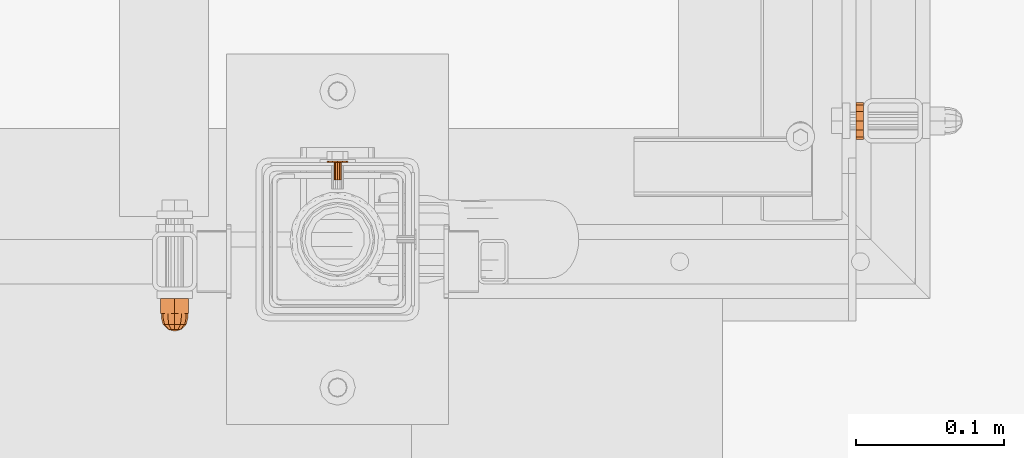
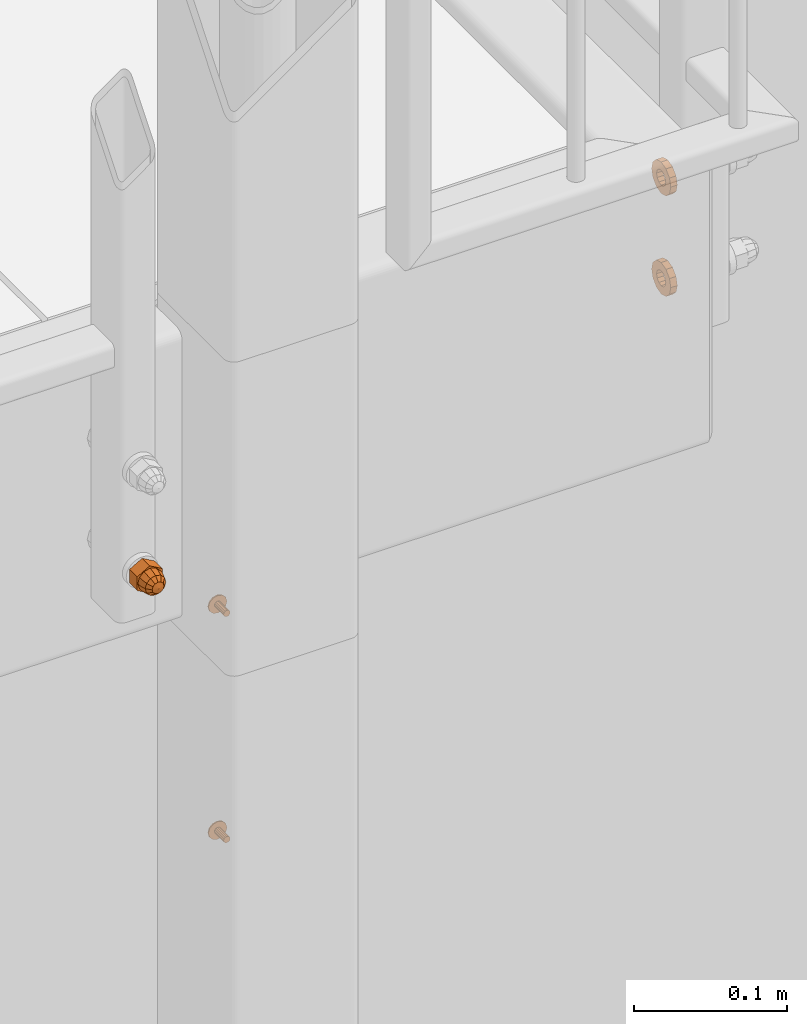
# One storey, part 127 of 162: 5 proxies.
"""IFC2X3 building model written with IfcOpenShell, lengths in millimetres."""

from ifc_helpers import new_model, entity, si_unit, converted_unit, origin_with_axes, place, context, project, spatial, faceted_brep, material, element, save


model = new_model("IFC2X3")

# Units and contexts
model_context = context("Model", 3, precision=1e-09, world=origin_with_axes())
ifc_project = project(units=[si_unit("LENGTHUNIT", "METRE", prefix="MILLI"), si_unit("AREAUNIT", "SQUARE_METRE"), si_unit("VOLUMEUNIT", "CUBIC_METRE"), converted_unit("PLANEANGLEUNIT", "DEGREE", entity("IfcPlaneAngleMeasure", 0.01745329), si_unit("PLANEANGLEUNIT", "RADIAN"), dimensions=[0, 0, 0, 0, 0, 0, 0])], contexts=[model_context])

# Site, building, storey
site_placement = place(None, origin_with_axes())
site = spatial("IfcSite", under=ifc_project, at=site_placement, Name="Hermannstra?e 1a, 60318 Frankfurt", CompositionType="ELEMENT")
building_placement = place(site_placement, origin_with_axes())
building = spatial("IfcBuilding", under=site, at=building_placement, Name="Struktur 1", CompositionType="ELEMENT")
storey_placement = place(building_placement, origin_with_axes())
storey = spatial("IfcBuildingStorey", under=building, at=storey_placement, Name="Default Storey", CompositionType="ELEMENT", Elevation=0.0)

# Proxies
ifc_material = material(Name="Kein")
proxy_1_placement = place(None, origin_with_axes())
element("IfcBuildingElementProxy", 1, at=proxy_1_placement, inside=storey, material=ifc_material, ObjectType="-", context=model_context, shape_type="Brep", body=[
    faceted_brep([(5357.30936482, 1490.609373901, 11339.999), (5357.30936482, 1480.609373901, 11339.999), (5358.113212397, 1480.609373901, 11336.999), (5358.113212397, 1490.609373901, 11336.999), (5360.30936482, 1480.609373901, 11334.802847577), (5360.30936482, 1490.609373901, 11334.802847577), (5358.113212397, 1490.609373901, 11342.999), (5358.113212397, 1480.609373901, 11342.999), (5353.829495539, 1490.609373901, 11345.472205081), (5363.30936482, 1490.609373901, 11350.945410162), (5372.7892341, 1490.609373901, 11345.472205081), (5372.7892341, 1490.609373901, 11334.525794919), (5363.30936482, 1490.609373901, 11329.052589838), (5353.829495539, 1490.609373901, 11334.525794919), (5360.30936482, 1490.609373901, 11345.195152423), (5363.30936482, 1490.609373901, 11333.999), (5366.30936482, 1490.609373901, 11334.802847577), (5368.505517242, 1490.609373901, 11336.999), (5369.30936482, 1490.609373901, 11339.999), (5368.505517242, 1490.609373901, 11342.999), (5366.30936482, 1490.609373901, 11345.195152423), (5363.30936482, 1490.609373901, 11345.999), (5363.30936482, 1480.609373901, 11350.945410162), (5353.829495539, 1480.609373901, 11345.472205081), (5353.829495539, 1480.609373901, 11334.525794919), (5363.30936482, 1480.609373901, 11329.052589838), (5372.7892341, 1480.609373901, 11334.525794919), (5372.7892341, 1480.609373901, 11345.472205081), (5360.30936482, 1480.609373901, 11345.195152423), (5363.30936482, 1480.609373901, 11345.999), (5366.30936482, 1480.609373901, 11345.195152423), (5368.505517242, 1480.609373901, 11342.999), (5369.30936482, 1480.609373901, 11339.999), (5368.505517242, 1480.609373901, 11336.999), (5366.30936482, 1480.609373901, 11334.802847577), (5363.30936482, 1480.609373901, 11333.999)], [[[0, 1, 2, 3]], [[3, 2, 4, 5]], [[1, 0, 6, 7]], [[8, 9, 10, 11, 12, 13], [14, 6, 0, 3, 5, 15, 16, 17, 18, 19, 20, 21]], [[22, 23, 24, 25, 26, 27], [1, 7, 28, 29, 30, 31, 32, 33, 34, 35, 4, 2]], [[7, 6, 14, 28]], [[24, 23, 8, 13]], [[5, 4, 35, 15]], [[13, 12, 25, 24]], [[28, 14, 21, 29]], [[23, 22, 9, 8]], [[15, 35, 34, 16]], [[12, 11, 26, 25]], [[29, 21, 20, 30]], [[22, 27, 10, 9]], [[16, 34, 33, 17]], [[27, 26, 11, 10]], [[30, 20, 19, 31]], [[17, 33, 32, 18]], [[31, 19, 18, 32]]]),
    faceted_brep([(5363.30936482, 1480.609373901, 11348.999), (5363.30936482, 1477.609373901, 11348.999), (5367.80936482, 1477.609373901, 11347.793228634), (5367.80936482, 1480.609373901, 11347.793228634), (5358.80936482, 1480.609373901, 11347.793228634), (5358.80936482, 1477.609373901, 11347.793228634), (5355.515136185, 1477.609373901, 11335.499), (5358.80936482, 1477.609373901, 11332.204771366), (5363.30936482, 1477.609373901, 11330.999), (5367.80936482, 1477.609373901, 11332.204771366), (5371.103593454, 1477.609373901, 11335.499), (5372.30936482, 1477.609373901, 11339.999), (5371.103593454, 1477.609373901, 11344.499), (5355.515136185, 1477.609373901, 11344.499), (5354.30936482, 1477.609373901, 11339.999), (5371.103593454, 1480.609373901, 11335.499), (5367.80936482, 1480.609373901, 11332.204771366), (5363.30936482, 1480.609373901, 11330.999), (5358.80936482, 1480.609373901, 11332.204771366), (5355.515136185, 1480.609373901, 11335.499), (5354.30936482, 1480.609373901, 11339.999), (5355.515136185, 1480.609373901, 11344.499), (5371.103593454, 1480.609373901, 11344.499), (5372.30936482, 1480.609373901, 11339.999)], [[[0, 1, 2, 3]], [[1, 0, 4, 5]], [[6, 7, 8, 9, 10, 11, 12, 2, 1, 5, 13, 14]], [[15, 16, 17, 18, 19, 20, 21, 4, 0, 3, 22, 23]], [[3, 2, 12, 22]], [[5, 4, 21, 13]], [[22, 12, 11, 23]], [[13, 21, 20, 14]], [[7, 18, 17, 8]], [[19, 6, 14, 20]], [[18, 7, 6, 19]], [[23, 11, 10, 15]], [[8, 17, 16, 9]], [[15, 10, 9, 16]]]),
    faceted_brep([(5355.515136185, 1477.609373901, 11344.499), (5356.55936482, 1473.109373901, 11343.896114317), (5359.412250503, 1473.109373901, 11346.749), (5358.80936482, 1477.609373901, 11347.793228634), (5371.103593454, 1477.609373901, 11335.499), (5367.80936482, 1477.609373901, 11332.204771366), (5363.30936482, 1477.609373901, 11330.999), (5358.80936482, 1477.609373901, 11332.204771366), (5355.515136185, 1477.609373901, 11335.499), (5354.30936482, 1477.609373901, 11339.999), (5363.30936482, 1477.609373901, 11348.999), (5367.80936482, 1477.609373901, 11347.793228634), (5371.103593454, 1477.609373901, 11344.499), (5372.30936482, 1477.609373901, 11339.999), (5363.30936482, 1473.109373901, 11347.793228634), (5355.515136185, 1473.109373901, 11339.999), (5358.80936482, 1469.815145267, 11339.999), (5359.412250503, 1469.815145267, 11342.249), (5367.206479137, 1473.109373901, 11346.749), (5361.05936482, 1469.815145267, 11343.896114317), (5356.55936482, 1473.109373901, 11336.101885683), (5359.412250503, 1469.815145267, 11337.749), (5363.30936482, 1469.815145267, 11344.499), (5363.30936482, 1468.609373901, 11339.999), (5359.412250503, 1473.109373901, 11333.249), (5361.05936482, 1469.815145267, 11336.101885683), (5363.30936482, 1473.109373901, 11332.204771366), (5370.05936482, 1473.109373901, 11343.896114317), (5365.55936482, 1469.815145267, 11343.896114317), (5363.30936482, 1469.815145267, 11335.499), (5367.206479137, 1473.109373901, 11333.249), (5365.55936482, 1469.815145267, 11336.101885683), (5371.103593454, 1473.109373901, 11339.999), (5367.206479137, 1469.815145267, 11342.249), (5370.05936482, 1473.109373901, 11336.101885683), (5367.206479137, 1469.815145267, 11337.749), (5367.80936482, 1469.815145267, 11339.999)], [[[0, 1, 2, 3]], [[4, 5, 6, 7, 8, 9, 0, 3, 10, 11, 12, 13]], [[3, 2, 14, 10]], [[15, 16, 17, 1]], [[1, 0, 9, 15]], [[10, 14, 18, 11]], [[1, 17, 19, 2]], [[16, 15, 20, 21]], [[2, 19, 22, 14]], [[23, 17, 16]], [[24, 25, 21, 20]], [[23, 16, 21]], [[24, 7, 6, 26]], [[20, 8, 7, 24]], [[15, 9, 8, 20]], [[11, 18, 27, 12]], [[14, 22, 28, 18]], [[23, 19, 17]], [[26, 29, 25, 24]], [[23, 21, 25]], [[23, 22, 19]], [[26, 6, 5, 30]], [[29, 26, 30, 31]], [[23, 25, 29]], [[12, 27, 32, 13]], [[18, 28, 33, 27]], [[23, 28, 22]], [[23, 29, 31]], [[23, 33, 28]], [[30, 5, 4, 34]], [[31, 30, 34, 35]], [[23, 31, 35]], [[13, 32, 34, 4]], [[27, 33, 36, 32]], [[23, 36, 33]], [[23, 35, 36]], [[35, 34, 32, 36]]]),
])
proxy_2_placement = place(None, origin_with_axes())
element("IfcBuildingElementProxy", 2, at=proxy_2_placement, inside=storey, material=ifc_material, ObjectType="-", context=model_context, shape_type="Brep", body=[
    faceted_brep([(5828.30936482, 1599.784056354, 11413.749), (5828.30936482, 1604.359373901, 11409.173682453), (5828.30936482, 1610.609373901, 11407.499), (5828.30936482, 1616.859373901, 11409.173682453), (5828.30936482, 1621.434691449, 11413.749), (5828.30936482, 1623.109373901, 11419.999), (5828.30936482, 1621.434691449, 11426.249), (5828.30936482, 1616.859373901, 11430.824317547), (5828.30936482, 1610.609373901, 11432.499), (5828.30936482, 1604.359373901, 11430.824317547), (5828.30936482, 1599.784056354, 11426.249), (5828.30936482, 1598.109373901, 11419.999), (5828.30936482, 1610.609373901, 11413.999), (5828.30936482, 1607.609373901, 11414.802847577), (5828.30936482, 1605.413221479, 11416.999), (5828.30936482, 1604.609373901, 11419.999), (5828.30936482, 1605.413221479, 11422.999), (5828.30936482, 1607.609373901, 11425.195152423), (5828.30936482, 1610.609373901, 11425.999), (5828.30936482, 1613.609373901, 11425.195152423), (5828.30936482, 1615.805526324, 11422.999), (5828.30936482, 1616.609373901, 11419.999), (5828.30936482, 1615.805526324, 11416.999), (5828.30936482, 1613.609373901, 11414.802847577), (5823.30936482, 1599.784056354, 11413.749), (5823.30936482, 1604.359373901, 11409.173682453), (5823.30936482, 1598.109373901, 11419.999), (5823.30936482, 1599.784056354, 11426.249), (5823.30936482, 1604.359373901, 11430.824317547), (5823.30936482, 1610.609373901, 11432.499), (5823.30936482, 1616.859373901, 11430.824317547), (5823.30936482, 1621.434691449, 11426.249), (5823.30936482, 1623.109373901, 11419.999), (5823.30936482, 1621.434691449, 11413.749), (5823.30936482, 1616.859373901, 11409.173682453), (5823.30936482, 1610.609373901, 11407.499), (5823.30936482, 1605.413221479, 11422.999), (5823.30936482, 1604.609373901, 11419.999), (5823.30936482, 1605.413221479, 11416.999), (5823.30936482, 1607.609373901, 11414.802847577), (5823.30936482, 1610.609373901, 11413.999), (5823.30936482, 1613.609373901, 11414.802847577), (5823.30936482, 1615.805526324, 11416.999), (5823.30936482, 1616.609373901, 11419.999), (5823.30936482, 1615.805526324, 11422.999), (5823.30936482, 1613.609373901, 11425.195152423), (5823.30936482, 1610.609373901, 11425.999), (5823.30936482, 1607.609373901, 11425.195152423)], [[[0, 1, 2, 3, 4, 5, 6, 7, 8, 9, 10, 11], [12, 13, 14, 15, 16, 17, 18, 19, 20, 21, 22, 23]], [[0, 24, 25, 1]], [[24, 26, 27, 28, 29, 30, 31, 32, 33, 34, 35, 25], [36, 37, 38, 39, 40, 41, 42, 43, 44, 45, 46, 47]], [[38, 14, 13, 39]], [[24, 0, 11, 26]], [[14, 38, 37, 15]], [[39, 13, 12, 40]], [[1, 25, 35, 2]], [[26, 11, 10, 27]], [[15, 37, 36, 16]], [[40, 12, 23, 41]], [[2, 35, 34, 3]], [[27, 10, 9, 28]], [[16, 36, 47, 17]], [[22, 42, 41, 23]], [[3, 34, 33, 4]], [[42, 22, 21, 43]], [[28, 9, 8, 29]], [[17, 47, 46, 18]], [[20, 44, 43, 21]], [[4, 33, 32, 5]], [[45, 19, 18, 46]], [[44, 20, 19, 45]], [[29, 8, 7, 30]], [[5, 32, 31, 6]], [[30, 7, 6, 31]]]),
])
proxy_3_placement = place(None, origin_with_axes())
element("IfcBuildingElementProxy", 3, at=proxy_3_placement, inside=storey, material=ifc_material, ObjectType="-", context=model_context, shape_type="Brep", body=[
    faceted_brep([(5828.30936482, 1599.784056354, 11333.749), (5828.30936482, 1604.359373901, 11329.173682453), (5828.30936482, 1610.609373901, 11327.499), (5828.30936482, 1616.859373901, 11329.173682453), (5828.30936482, 1621.434691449, 11333.749), (5828.30936482, 1623.109373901, 11339.999), (5828.30936482, 1621.434691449, 11346.249), (5828.30936482, 1616.859373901, 11350.824317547), (5828.30936482, 1610.609373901, 11352.499), (5828.30936482, 1604.359373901, 11350.824317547), (5828.30936482, 1599.784056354, 11346.249), (5828.30936482, 1598.109373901, 11339.999), (5828.30936482, 1610.609373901, 11333.999), (5828.30936482, 1607.609373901, 11334.802847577), (5828.30936482, 1605.413221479, 11336.999), (5828.30936482, 1604.609373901, 11339.999), (5828.30936482, 1605.413221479, 11342.999), (5828.30936482, 1607.609373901, 11345.195152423), (5828.30936482, 1610.609373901, 11345.999), (5828.30936482, 1613.609373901, 11345.195152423), (5828.30936482, 1615.805526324, 11342.999), (5828.30936482, 1616.609373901, 11339.999), (5828.30936482, 1615.805526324, 11336.999), (5828.30936482, 1613.609373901, 11334.802847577), (5823.30936482, 1599.784056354, 11333.749), (5823.30936482, 1604.359373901, 11329.173682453), (5823.30936482, 1598.109373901, 11339.999), (5823.30936482, 1599.784056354, 11346.249), (5823.30936482, 1604.359373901, 11350.824317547), (5823.30936482, 1610.609373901, 11352.499), (5823.30936482, 1616.859373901, 11350.824317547), (5823.30936482, 1621.434691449, 11346.249), (5823.30936482, 1623.109373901, 11339.999), (5823.30936482, 1621.434691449, 11333.749), (5823.30936482, 1616.859373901, 11329.173682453), (5823.30936482, 1610.609373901, 11327.499), (5823.30936482, 1605.413221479, 11342.999), (5823.30936482, 1604.609373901, 11339.999), (5823.30936482, 1605.413221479, 11336.999), (5823.30936482, 1607.609373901, 11334.802847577), (5823.30936482, 1610.609373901, 11333.999), (5823.30936482, 1613.609373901, 11334.802847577), (5823.30936482, 1615.805526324, 11336.999), (5823.30936482, 1616.609373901, 11339.999), (5823.30936482, 1615.805526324, 11342.999), (5823.30936482, 1613.609373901, 11345.195152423), (5823.30936482, 1610.609373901, 11345.999), (5823.30936482, 1607.609373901, 11345.195152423)], [[[0, 1, 2, 3, 4, 5, 6, 7, 8, 9, 10, 11], [12, 13, 14, 15, 16, 17, 18, 19, 20, 21, 22, 23]], [[0, 24, 25, 1]], [[24, 26, 27, 28, 29, 30, 31, 32, 33, 34, 35, 25], [36, 37, 38, 39, 40, 41, 42, 43, 44, 45, 46, 47]], [[38, 14, 13, 39]], [[24, 0, 11, 26]], [[14, 38, 37, 15]], [[39, 13, 12, 40]], [[1, 25, 35, 2]], [[26, 11, 10, 27]], [[15, 37, 36, 16]], [[40, 12, 23, 41]], [[2, 35, 34, 3]], [[27, 10, 9, 28]], [[16, 36, 47, 17]], [[22, 42, 41, 23]], [[3, 34, 33, 4]], [[42, 22, 21, 43]], [[28, 9, 8, 29]], [[17, 47, 46, 18]], [[20, 44, 43, 21]], [[4, 33, 32, 5]], [[45, 19, 18, 46]], [[44, 20, 19, 45]], [[29, 8, 7, 30]], [[5, 32, 31, 6]], [[30, 7, 6, 31]]]),
])
proxy_4_placement = place(None, origin_with_axes())
element("IfcBuildingElementProxy", 4, at=proxy_4_placement, inside=storey, material=ifc_material, ObjectType="-", context=model_context, shape_type="Brep", body=[
    faceted_brep([(5466.30936482, 1582.609373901, 11039.999), (5466.30936482, 1583.609373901, 11039.999), (5467.247186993, 1583.609373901, 11036.499), (5467.247186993, 1582.609373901, 11036.499), (5467.247186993, 1582.609373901, 11043.499), (5467.247186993, 1583.609373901, 11043.499), (5476.80936482, 1583.609373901, 11046.061177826), (5479.371542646, 1583.609373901, 11043.499), (5480.30936482, 1583.609373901, 11039.999), (5479.371542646, 1583.609373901, 11036.499), (5476.80936482, 1583.609373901, 11033.936822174), (5473.30936482, 1583.609373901, 11032.999), (5469.80936482, 1583.609373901, 11033.936822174), (5469.80936482, 1583.609373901, 11046.061177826), (5473.30936482, 1583.609373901, 11046.999), (5476.80936482, 1582.609373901, 11033.936822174), (5479.371542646, 1582.609373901, 11036.499), (5480.30936482, 1582.609373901, 11039.999), (5479.371542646, 1582.609373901, 11043.499), (5476.80936482, 1582.609373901, 11046.061177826), (5473.30936482, 1582.609373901, 11046.999), (5469.80936482, 1582.609373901, 11046.061177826), (5469.80936482, 1582.609373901, 11033.936822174), (5473.30936482, 1582.609373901, 11032.999)], [[[0, 1, 2, 3]], [[1, 0, 4, 5]], [[6, 7, 8, 9, 10, 11, 12, 2, 1, 5, 13, 14]], [[15, 16, 17, 18, 19, 20, 21, 4, 0, 3, 22, 23]], [[3, 2, 12, 22]], [[5, 4, 21, 13]], [[11, 23, 22, 12]], [[10, 15, 23, 11]], [[13, 21, 20, 14]], [[16, 9, 8, 17]], [[15, 10, 9, 16]], [[17, 8, 7, 18]], [[14, 20, 19, 6]], [[18, 7, 6, 19]]]),
    faceted_brep([(5470.80936482, 1570.609373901, 11039.999), (5470.80936482, 1582.609373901, 11039.999), (5471.14430131, 1582.609373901, 11038.749), (5471.14430131, 1570.609373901, 11038.749), (5471.14430131, 1570.609373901, 11041.249), (5471.14430131, 1582.609373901, 11041.249), (5474.55936482, 1582.609373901, 11042.164063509), (5475.474428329, 1582.609373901, 11041.249), (5475.80936482, 1582.609373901, 11039.999), (5475.474428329, 1582.609373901, 11038.749), (5474.55936482, 1582.609373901, 11037.833936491), (5473.30936482, 1582.609373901, 11037.499), (5472.05936482, 1582.609373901, 11037.833936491), (5472.05936482, 1582.609373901, 11042.164063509), (5473.30936482, 1582.609373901, 11042.499), (5474.55936482, 1570.609373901, 11037.833936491), (5475.474428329, 1570.609373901, 11038.749), (5475.80936482, 1570.609373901, 11039.999), (5475.474428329, 1570.609373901, 11041.249), (5474.55936482, 1570.609373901, 11042.164063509), (5473.30936482, 1570.609373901, 11042.499), (5472.05936482, 1570.609373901, 11042.164063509), (5472.05936482, 1570.609373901, 11037.833936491), (5473.30936482, 1570.609373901, 11037.499)], [[[0, 1, 2, 3]], [[1, 0, 4, 5]], [[6, 7, 8, 9, 10, 11, 12, 2, 1, 5, 13, 14]], [[15, 16, 17, 18, 19, 20, 21, 4, 0, 3, 22, 23]], [[3, 2, 12, 22]], [[5, 4, 21, 13]], [[11, 23, 22, 12]], [[10, 15, 23, 11]], [[13, 21, 20, 14]], [[16, 9, 8, 17]], [[15, 10, 9, 16]], [[17, 8, 7, 18]], [[14, 20, 19, 6]], [[18, 7, 6, 19]]]),
])
proxy_5_placement = place(None, origin_with_axes())
element("IfcBuildingElementProxy", 5, at=proxy_5_placement, inside=storey, material=ifc_material, ObjectType="-", context=model_context, shape_type="Brep", body=[
    faceted_brep([(5466.30936482, 1582.609373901, 11219.999), (5466.30936482, 1583.609373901, 11219.999), (5467.247186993, 1583.609373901, 11216.499), (5467.247186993, 1582.609373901, 11216.499), (5467.247186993, 1582.609373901, 11223.499), (5467.247186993, 1583.609373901, 11223.499), (5476.80936482, 1583.609373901, 11226.061177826), (5479.371542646, 1583.609373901, 11223.499), (5480.30936482, 1583.609373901, 11219.999), (5479.371542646, 1583.609373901, 11216.499), (5476.80936482, 1583.609373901, 11213.936822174), (5473.30936482, 1583.609373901, 11212.999), (5469.80936482, 1583.609373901, 11213.936822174), (5469.80936482, 1583.609373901, 11226.061177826), (5473.30936482, 1583.609373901, 11226.999), (5476.80936482, 1582.609373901, 11213.936822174), (5479.371542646, 1582.609373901, 11216.499), (5480.30936482, 1582.609373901, 11219.999), (5479.371542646, 1582.609373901, 11223.499), (5476.80936482, 1582.609373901, 11226.061177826), (5473.30936482, 1582.609373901, 11226.999), (5469.80936482, 1582.609373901, 11226.061177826), (5469.80936482, 1582.609373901, 11213.936822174), (5473.30936482, 1582.609373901, 11212.999)], [[[0, 1, 2, 3]], [[1, 0, 4, 5]], [[6, 7, 8, 9, 10, 11, 12, 2, 1, 5, 13, 14]], [[15, 16, 17, 18, 19, 20, 21, 4, 0, 3, 22, 23]], [[3, 2, 12, 22]], [[5, 4, 21, 13]], [[11, 23, 22, 12]], [[10, 15, 23, 11]], [[13, 21, 20, 14]], [[16, 9, 8, 17]], [[15, 10, 9, 16]], [[17, 8, 7, 18]], [[14, 20, 19, 6]], [[18, 7, 6, 19]]]),
    faceted_brep([(5470.80936482, 1570.609373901, 11219.999), (5470.80936482, 1582.609373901, 11219.999), (5471.14430131, 1582.609373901, 11218.749), (5471.14430131, 1570.609373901, 11218.749), (5471.14430131, 1570.609373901, 11221.249), (5471.14430131, 1582.609373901, 11221.249), (5474.55936482, 1582.609373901, 11222.164063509), (5475.474428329, 1582.609373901, 11221.249), (5475.80936482, 1582.609373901, 11219.999), (5475.474428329, 1582.609373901, 11218.749), (5474.55936482, 1582.609373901, 11217.833936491), (5473.30936482, 1582.609373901, 11217.499), (5472.05936482, 1582.609373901, 11217.833936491), (5472.05936482, 1582.609373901, 11222.164063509), (5473.30936482, 1582.609373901, 11222.499), (5474.55936482, 1570.609373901, 11217.833936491), (5475.474428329, 1570.609373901, 11218.749), (5475.80936482, 1570.609373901, 11219.999), (5475.474428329, 1570.609373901, 11221.249), (5474.55936482, 1570.609373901, 11222.164063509), (5473.30936482, 1570.609373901, 11222.499), (5472.05936482, 1570.609373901, 11222.164063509), (5472.05936482, 1570.609373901, 11217.833936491), (5473.30936482, 1570.609373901, 11217.499)], [[[0, 1, 2, 3]], [[1, 0, 4, 5]], [[6, 7, 8, 9, 10, 11, 12, 2, 1, 5, 13, 14]], [[15, 16, 17, 18, 19, 20, 21, 4, 0, 3, 22, 23]], [[3, 2, 12, 22]], [[5, 4, 21, 13]], [[11, 23, 22, 12]], [[10, 15, 23, 11]], [[13, 21, 20, 14]], [[16, 9, 8, 17]], [[15, 10, 9, 16]], [[17, 8, 7, 18]], [[14, 20, 19, 6]], [[18, 7, 6, 19]]]),
])

save(model, "model.ifc")
